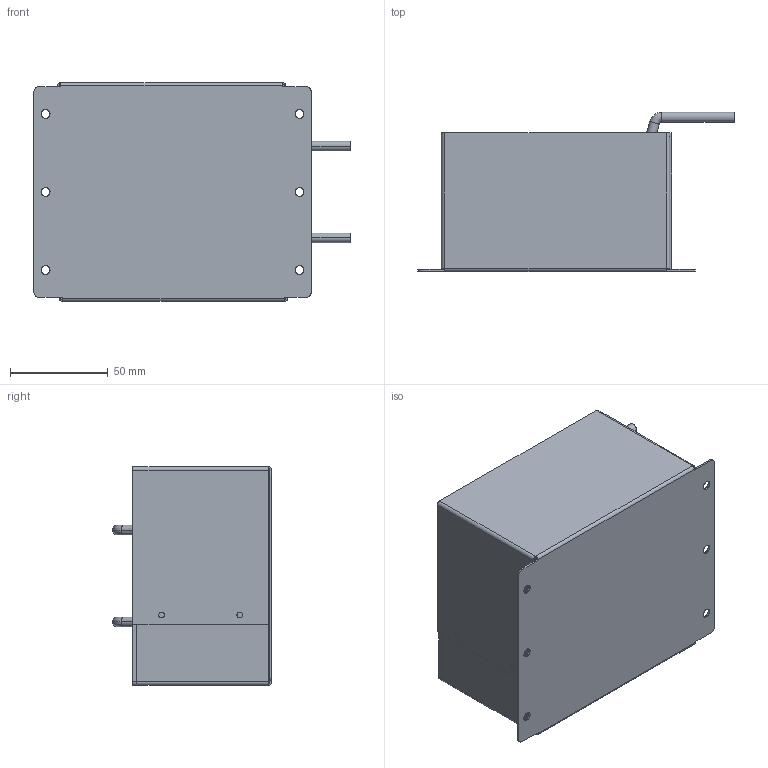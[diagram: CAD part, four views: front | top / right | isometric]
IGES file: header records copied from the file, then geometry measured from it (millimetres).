
Start section: SolidWorks IGES file using analytic representation for surfaces
Global section: file name: 19H\\10.106.230.1\r&d file\05_COMP\02_Mechanical\10_Others\PV_RT 81\网络用3D模型\灌封模型\S-5KW-G-DCL\S-5KW_G_DCL 总装.IGS; native system: SolidWorks 2009; preprocessor: SolidWorks 2009; author: 钱雅婧, ,; organization: 11; date: 120507.171040; units: millimetre
Bounding box: 161.9 x 81.5 x 112 mm (x, y, z)
Surface area: 158794.5 mm2 (no closed solid volume)
Topology: 0 solids, 0 shells, 114 faces, 828 edges, 828 vertices
Faces by surface type: bspline 66, revolution 48
